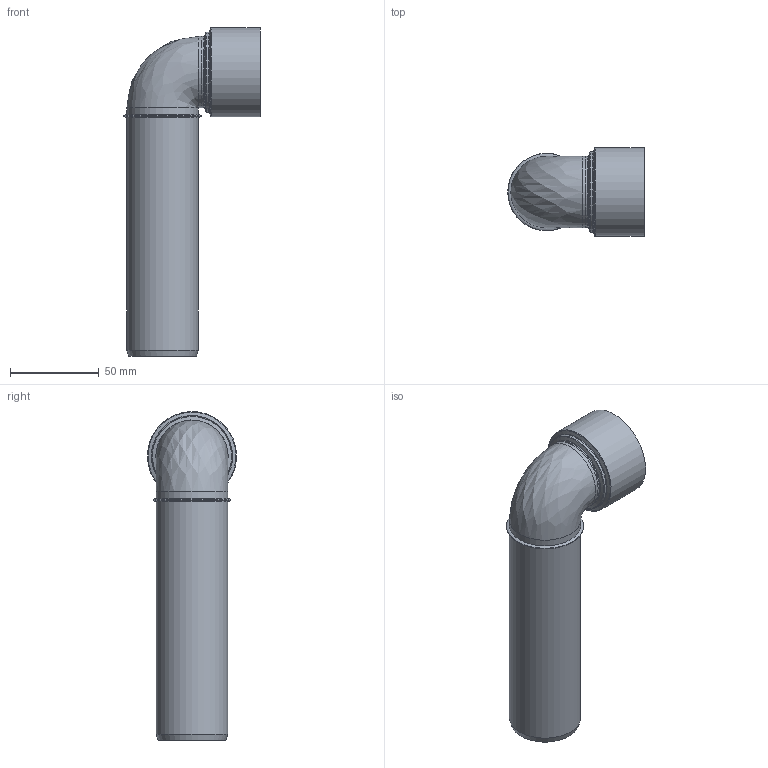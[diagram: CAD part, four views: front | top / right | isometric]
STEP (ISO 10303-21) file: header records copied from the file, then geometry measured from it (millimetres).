
FILE_DESCRIPTION(/* description */ (''),/* implementation_level */ '2;1');
FILE_NAME(/* name */ 'Z:\Geberit\Export\NewStep\390186.stp',/* time_stamp */ '2014-04-02T08:09:23+02:00',/* author */ ('ML'),/* organization */ (''),/* preprocessor_version */ 'ST-DEVELOPER v15.2',/* originating_system */ 'Autodesk Inventor 2014',/* authorisation */ '');
FILE_SCHEMA (('AUTOMOTIVE_DESIGN { 1 0 10303 214 3 1 1 }'));
Length unit declared in the file: millimetre
Products named in the file (3): 861476; 861470Muffe; 390186
Bounding box: 76.83 x 50.09 x 185.04 mm (x, y, z)
Volume: 53011.9 mm3; surface area: 53471 mm2
Topology: 2 solids, 2 shells, 28 faces, 55 edges, 29 vertices
Faces by surface type: cylinder 10, torus 9, cone 4, plane 4, bspline 1
Full cylindrical faces by diameter (mm): 36.15 x3, 40.15 x4, 45.15 x1, 46.15 x1, 50.15 x1
Entity records: 732 total; most frequent: CARTESIAN_POINT 168, DIRECTION 120, AXIS2_PLACEMENT_3D 60, ORIENTED_EDGE 56, EDGE_LOOP 55, FACE_BOUND 30, STYLED_ITEM 30, CIRCLE 28
